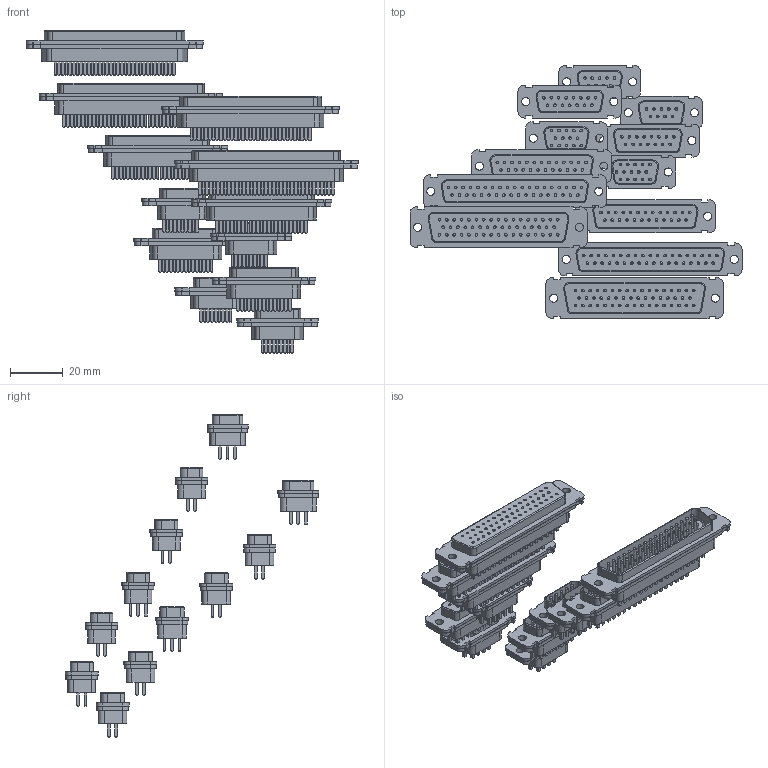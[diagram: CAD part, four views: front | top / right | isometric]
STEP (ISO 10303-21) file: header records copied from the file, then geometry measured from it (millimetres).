
FILE_DESCRIPTION((''),'2;1');
FILE_NAME('C:\_Work\Projects\Blog Files\DBConnector\DBConnector.stp','2011-05-26T01:46:53',(''),(''),'Autodesk Inventor 2012','Autodesk Inventor 2012','');
FILE_SCHEMA(('AUTOMOTIVE_DESIGN { 1 0 10303 214 1 1 1 1 }'));
Length unit declared in the file: inch
Products named in the file (13): Assembly1; DBConnector 9 2 Row-Male; DBConnector 9 2 Row-Female; DBConnector 15 2 Row-Male; DBConnector 15 3 Row-Male; DBConnector 15 3 Row-Female; DBConnector 15 2 Row-Female; DBConnector 25 2 Row-Male; DBConnector 25 2 Row-Female; DBConnector 37 2 Row-Male; DBConnector 37 2 Row-Female; DBConnector 50 3 Row-Male; DBConnector 50 3 Row-Female
Assembly tree (12 placements, depth 2):
  Assembly1
    DBConnector 9 2 Row-Male
    DBConnector 9 2 Row-Female
    DBConnector 15 2 Row-Male
    DBConnector 15 3 Row-Male
    DBConnector 15 3 Row-Female
    DBConnector 15 2 Row-Female
    DBConnector 25 2 Row-Male
    DBConnector 25 2 Row-Female
    DBConnector 37 2 Row-Male
    DBConnector 37 2 Row-Female
    DBConnector 50 3 Row-Male
    DBConnector 50 3 Row-Female
Bounding box: 125.46 x 95.79 x 121.86 mm (x, y, z)
Volume: 51843.5 mm3; surface area: 41807.1 mm2
Topology: 12 solids, 12 shells, 4364 faces, 10029 edges, 6177 vertices
Faces by surface type: plane 3552, cylinder 613, sphere 151, torus 48
Full cylindrical faces by diameter (mm): 0.991 x301, 3.048 x24
Entity records: 120092 total; most frequent: CARTESIAN_POINT 19769, DIRECTION 19382, ORIENTED_EDGE 18756, EDGE_CURVE 9378, VECTOR 8152, LINE 8152, VERTEX_POINT 6002, AXIS2_PLACEMENT_3D 5615
